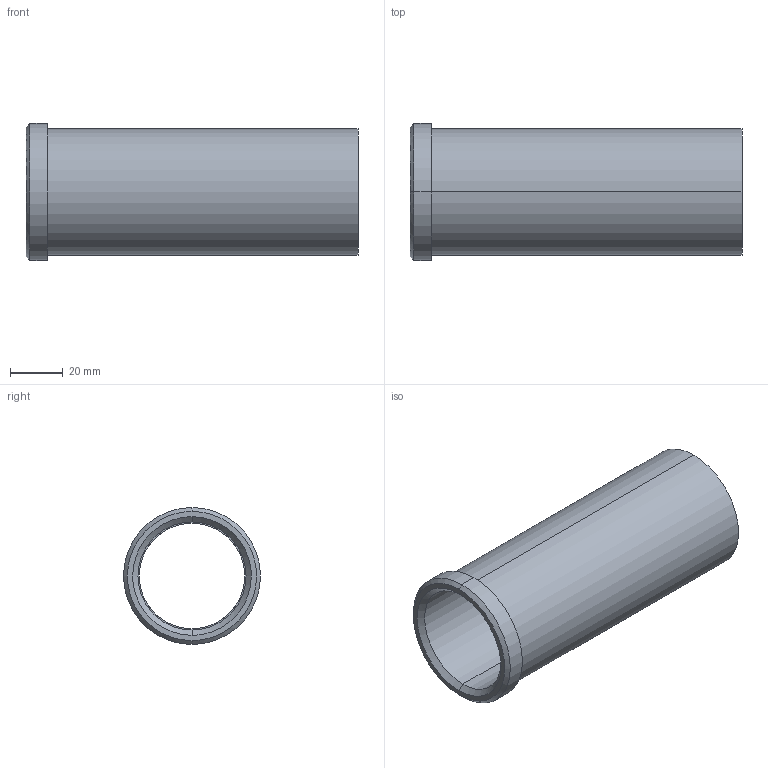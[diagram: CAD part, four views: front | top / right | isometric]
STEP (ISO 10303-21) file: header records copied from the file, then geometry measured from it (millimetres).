
FILE_DESCRIPTION(('CATIA V5 STEP Exchange'),'2;1');
FILE_NAME('C:\Users\Utente\Desktop\IO LAVORO\3D X SITO CF\X SITO\PLASTICA\353\353-40X126.stp','2021-05-13T18:20:03+00:00',('none'),('none'),'CATIA Version 5 Release 20 GA (IN-10)','CATIA V5 STEP AP203','none');
FILE_SCHEMA(('CONFIG_CONTROL_DESIGN'));
Length unit declared in the file: millimetre
Products named in the file (1): 353-40X126
Bounding box: 126 x 52 x 52 mm (x, y, z)
Volume: 68698.3 mm3; surface area: 36414.9 mm2
Topology: 1 solids, 1 shells, 18 faces, 58 edges, 44 vertices
Faces by surface type: cylinder 8, plane 4, cone 4, torus 2
Entity records: 840 total; most frequent: CARTESIAN_POINT 289, ORIENTED_EDGE 116, DIRECTION 82, EDGE_CURVE 58, AXIS2_PLACEMENT_3D 53, VERTEX_POINT 44, CIRCLE 34, EDGE_LOOP 22
